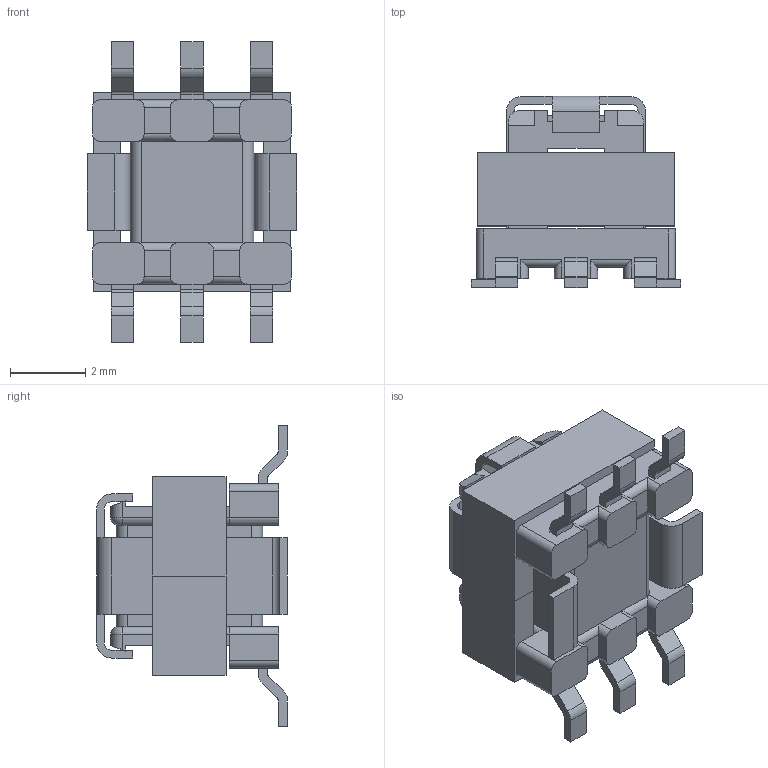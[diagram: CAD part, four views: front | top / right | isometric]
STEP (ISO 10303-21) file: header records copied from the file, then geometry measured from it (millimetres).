
FILE_DESCRIPTION (( 'STEP AP214' ), '1' );
FILE_NAME ('P8208.STEP', '2017-05-03T02:52:34', ( '' ), ( '' ), 'SwSTEP 2.0', 'SolidWorks 2015', '' );
FILE_SCHEMA (( 'AUTOMOTIVE_DESIGN' ));
Length unit declared in the file: millimetre
Products named in the file (5): 020-2174.001 EE5 Foil; Wire EE5 Bobbin; 042-0818.001 Bobbin EE5 SMG; 032-0648.001 EE5 Core; P8208
Assembly tree (5 placements, depth 2):
  P8208
    032-0648.001 EE5 Core  x2
    042-0818.001 Bobbin EE5 SMG
    Wire EE5 Bobbin
    020-2174.001 EE5 Foil
Bounding box: 5.59 x 5.08 x 8 mm (x, y, z)
Volume: 91.3 mm3; surface area: 441.1 mm2
Topology: 5 solids, 5 shells, 276 faces, 752 edges, 492 vertices
Faces by surface type: plane 180, cylinder 92, torus 4
Entity records: 9300 total; most frequent: CARTESIAN_POINT 1514, ORIENTED_EDGE 1432, DIRECTION 1388, EDGE_CURVE 716, LINE 544, VECTOR 544, VERTEX_POINT 468, AXIS2_PLACEMENT_3D 422
